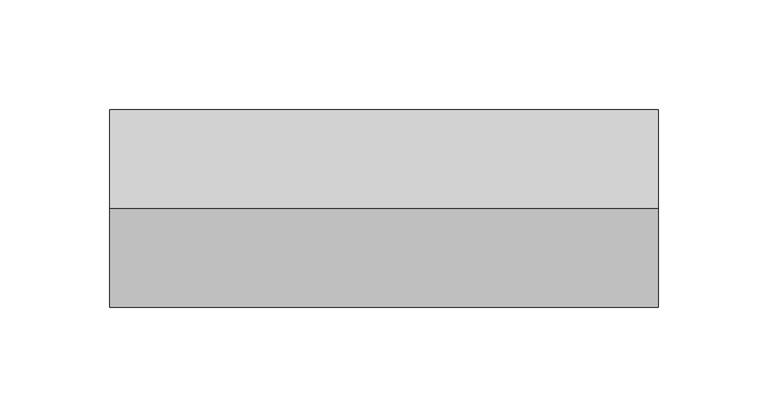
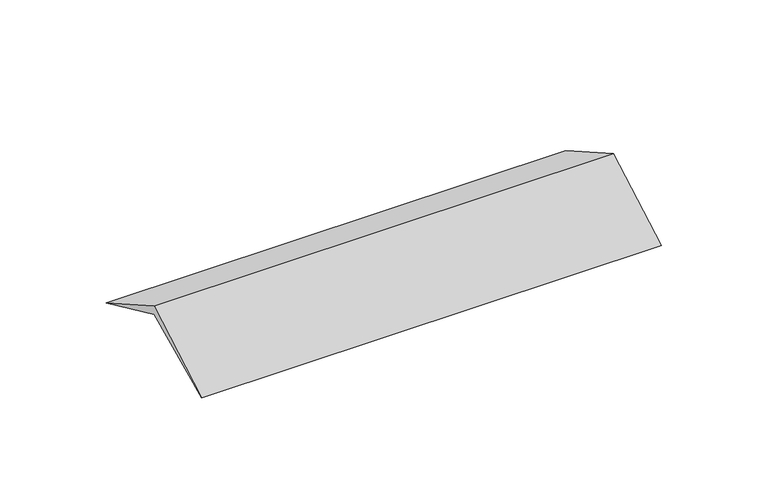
"""IFC4 building model written with IfcOpenShell, lengths in millimetres: cable carrier fitting geometry, КНС_НакладкаНаСтыкФронтальныхКрышекКоробов_ILF_DKC : Накладка на стык фронтальных крышек коробов."""

from ifc_helpers import new_model, si_unit, frame, origin, place, context, project, spatial, polyline, outline, extrude, source, transform, mapped, element, save


def cable_carrier_fitting_1b10b712(model_context):
    return source(origin(), model_context, "Body", "SweptSolid", [
        extrude(outline(polyline([(0.0, 33.1), (-45.0, 12.5), (0.0, 38.1), (45.0, 12.5), (0.0, 33.1)])), frame((-125.0, 0.0, 0.0), z_axis=(1.0, 0.0, 0.0), x_axis=(0.0, 1.0, 0.0)), (0.0, 0.0, 1.0), 250.0),
    ])


if __name__ == "__main__":
    model = new_model("IFC4")
    model_context = context("Model", 3, world=origin())
    ifc_project = project(units=[si_unit("LENGTHUNIT", "METRE", prefix="MILLI")], contexts=[model_context])
    site = spatial("IfcSite", under=ifc_project)
    building = spatial("IfcBuilding", under=site)
    placement = place(None, origin())
    cable_carrier_fitting_shape = cable_carrier_fitting_1b10b712(model_context)
    element("IfcCableCarrierFitting", 1, ObjectType="КНС_НакладкаНаСтыкФронтальныхКрышекКоробов_ILF_DKC : Накладка на стык фронтальных крышек коробов", at=placement, inside=building, context=model_context, shape_type="MappedRepresentation", body=[
        mapped(cable_carrier_fitting_shape, transform((0.0, 0.0, 0.0), x_axis=(1.0, 0.0, 0.0), y_axis=(0.0, 1.0, 0.0), z_axis=(0.0, 0.0, 1.0))),
    ])
    save(model, "model.ifc")
